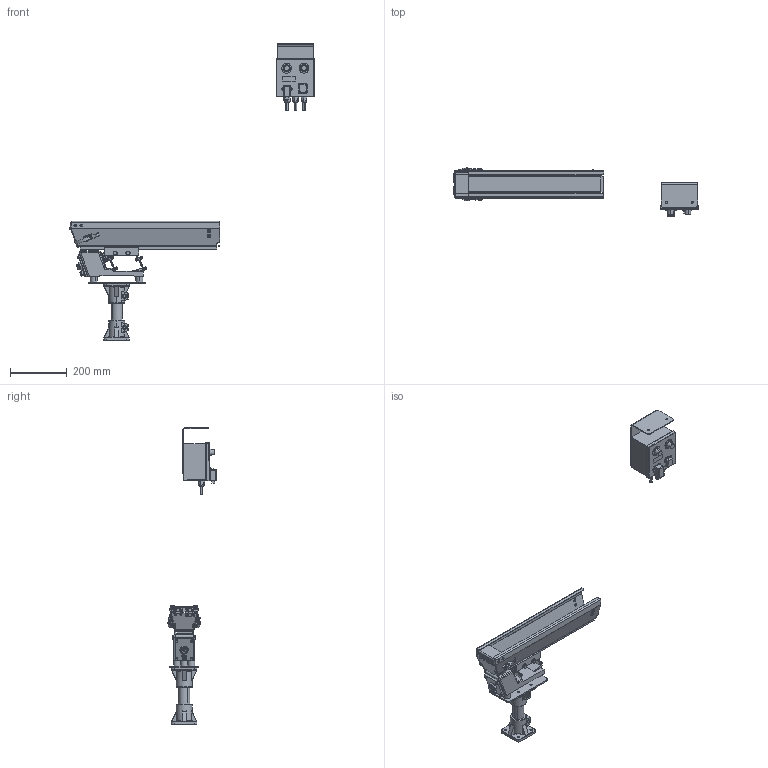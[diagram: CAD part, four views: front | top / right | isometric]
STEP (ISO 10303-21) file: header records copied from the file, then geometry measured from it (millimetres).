
FILE_DESCRIPTION (( 'STEP AP214' ), '1' );
FILE_NAME ('GM000771.STEP', '2023-06-12T09:46:03', ( '' ), ( '' ), 'SwSTEP 2.0', 'SolidWorks 2022', '' );
FILE_SCHEMA (( 'AUTOMOTIVE_DESIGN' ));
Length unit declared in the file: millimetre
Products named in the file (33): CM000305; CM000921; CM000559; CM000306_002; CM000079; PD003255; PD003250_002; PD000067; CM000432; PD003257; PD003250_001; CM000306_001; PD003253; PD003254; CM000306_003; PD003252; CM000925; PD003250; CM000306; CM000979; CM000924; SM000080; GM000771; CM000561; CM000922; CM000305_001; CM000305_002; CM000934; PD003251; CE000026; CM000305_003; CM000727
Assembly tree (48 placements, depth 3):
  CM000921
  CM000925
  CM000924
  GM000771
    CM000079  x4
    CM000561  x4
    CM000979  x4
    CM000559  x4
    PD003250
      PD003250_001
      PD003250_002
    PD003251
    CM000727
    PD003252
    CM000305
      CM000305_001
      CM000305_003
      CM000305_002
    CM000305
      CM000305_001
      CM000305_003
      CM000305_002
    CM000306  x2
      CM000306_001
      CM000306_002
      CM000306_003
    PD003253
    PD003254
    PD003255
    PD003257
    CM000432  x2
    SM000080
    PD000067
    CE000026
    CM000934  x4
  CM000922
Bounding box: 861.18 x 170.98 x 1044.73 mm (x, y, z)
Volume: 3608305.6 mm3; surface area: 926316 mm2
Topology: 69 solids, 69 shells, 6014 faces, 16510 edges, 10654 vertices
Faces by surface type: cylinder 4254, plane 1233, cone 332, torus 141, sphere 36, bspline 18
Entity records: 121158 total; most frequent: CARTESIAN_POINT 47473, ORIENTED_EDGE 15128, DIRECTION 10047, EDGE_CURVE 7564, VERTEX_POINT 4815, B_SPLINE_CURVE_WITH_KNOTS 4358, AXIS2_PLACEMENT_3D 4017, EDGE_LOOP 3185
